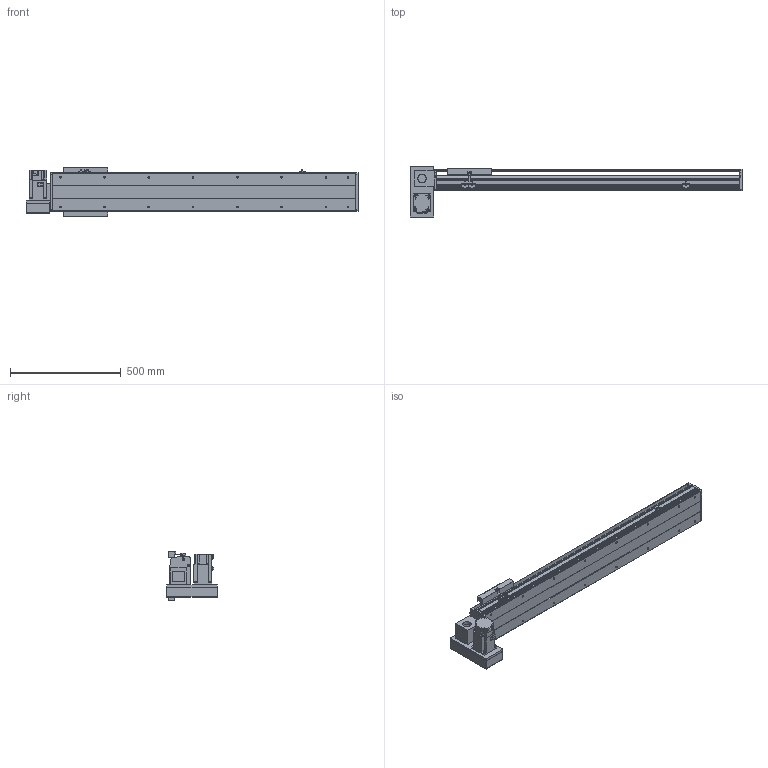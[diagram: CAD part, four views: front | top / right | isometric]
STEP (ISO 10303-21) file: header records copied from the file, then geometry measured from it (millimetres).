
FILE_DESCRIPTION(/* description */ ('STEP AP214'),/* implementation_level */ '2;1');
FILE_NAME(/* name */ 'PBS200-P40-S1000-LD-T75-C1-N(0)',/* time_stamp */ '2022-06-11T08:44:19+02:00',/* author */ ('License CC BY-ND 4.0'),/* organization */ ('CADENAS'),/* preprocessor_version */ 'ST-DEVELOPER v18.102',/* originating_system */ 'PARTsolutions',/* authorisation */ ' ');
FILE_SCHEMA (('AUTOMOTIVE_DESIGN {1 0 10303 214 3 1 1}'));
Length unit declared in the file: millimetre
Products named in the file (7): PBS200-P40-S1000-LD-T75-C1-N(0); PBS200_sensor; PBS200_plant; PBS200_sliser; T75-p1; PBS200T-LD_motors; PBS200-S1000()_body
Assembly tree (8 placements, depth 2):
  PBS200-P40-S1000-LD-T75-C1-N(0)
    PBS200_sensor  x3
    PBS200_plant
    PBS200_sliser
    T75-p1
    PBS200T-LD_motors
    PBS200-S1000()_body
Bounding box: 1500 x 230 x 221 mm (x, y, z)
Volume: 11237140 mm3; surface area: 1819633 mm2
Topology: 8 solids, 8 shells, 920 faces, 2374 edges, 1548 vertices
Faces by surface type: plane 574, cylinder 298, cone 48
Full cylindrical faces by diameter (mm): 2.459 x6, 3.242 x4, 4.5 x6, 4.917 x4, 5 x6, 6 x7, 6.6 x8, 6.647 x20, 8 x6, 10 x4, 12 x8, 38 x2, 40 x1, 70 x1
Entity records: 24581 total; most frequent: DIRECTION 4327, CARTESIAN_POINT 4192, ORIENTED_EDGE 3982, EDGE_CURVE 1991, AXIS2_PLACEMENT_3D 1507, VERTEX_POINT 1372, LINE 1313, VECTOR 1313
